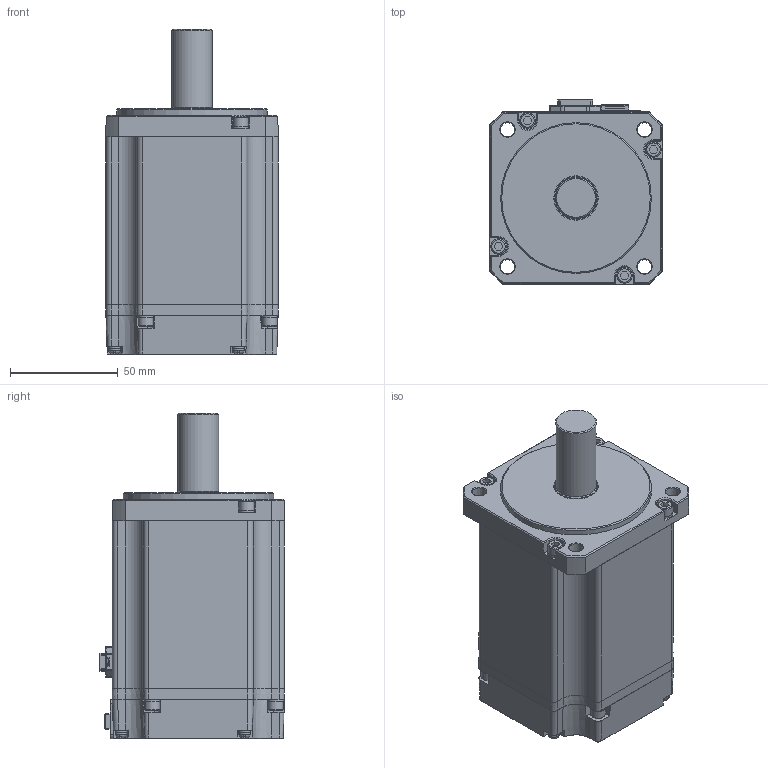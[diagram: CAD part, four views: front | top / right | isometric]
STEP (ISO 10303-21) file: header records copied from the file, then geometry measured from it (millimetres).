
FILE_DESCRIPTION (( 'STEP AP214' ), '1' );
FILE_NAME ('EM08GA003G04_Out Line(APM-EC10AM3N).STEP', '2022-11-10T03:16:53', ( '' ), ( '' ), 'SwSTEP 2.0', 'SolidWorks 2021', '' );
FILE_SCHEMA (( 'AUTOMOTIVE_DESIGN' ));
Length unit declared in the file: millimetre
Products named in the file (1): EM08GA003G04_Out Line(APM-EC10AM3N)
Bounding box: 80 x 85.9 x 151.2 mm (x, y, z)
Volume: 648225.6 mm3; surface area: 94769.3 mm2
Topology: 33 solids, 33 shells, 1427 faces, 3549 edges, 2254 vertices
Faces by surface type: plane 1027, cylinder 206, cone 128, torus 31, bspline 21, sphere 14
Full cylindrical faces by diameter (mm): 1.589 x1, 1.6 x9, 2 x2, 2.1 x2, 2.5 x4, 3 x8, 3.3 x8, 4 x12, 4.5 x8, 5.4 x8, 7 x8, 7.2 x8, 19 x1, 19.8 x1, 20.6 x1, 70 x1
Entity records: 57834 total; most frequent: CARTESIAN_POINT 8799, ORIENTED_EDGE 6716, DIRECTION 6499, EDGE_CURVE 3358, LINE 2495, VECTOR 2495, VERTEX_POINT 2211, AXIS2_PLACEMENT_3D 2002
